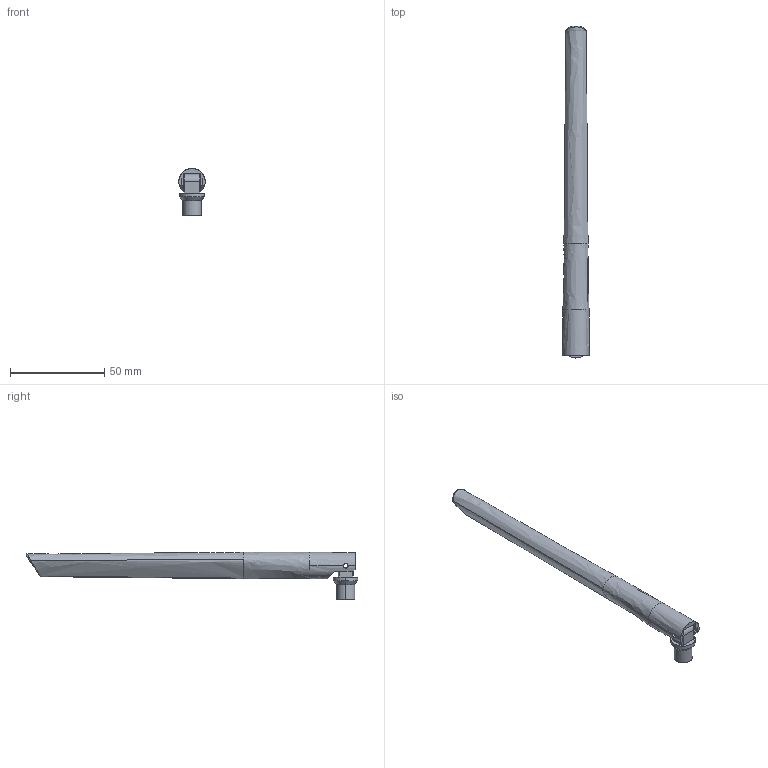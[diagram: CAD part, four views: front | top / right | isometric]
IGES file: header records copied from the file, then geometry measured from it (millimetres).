
Start section: SolidWorks IGES file using analytic representation for surfaces
Global section: file name: F:\RT VISION\PIS 2017\PIS DRAWING KP SIR\Magic box\WiFi Antenna.IGS; native system: SolidWorks 2018; preprocessor: SolidWorks 2018; author: RTV; date: 190207.181729; units: millimetre
Bounding box: 14 x 176.05 x 25.07 mm (x, y, z)
Surface area: 8258.1 mm2 (no closed solid volume)
Topology: 0 solids, 0 shells, 74 faces, 890 edges, 885 vertices
Faces by surface type: bspline 50, revolution 24
